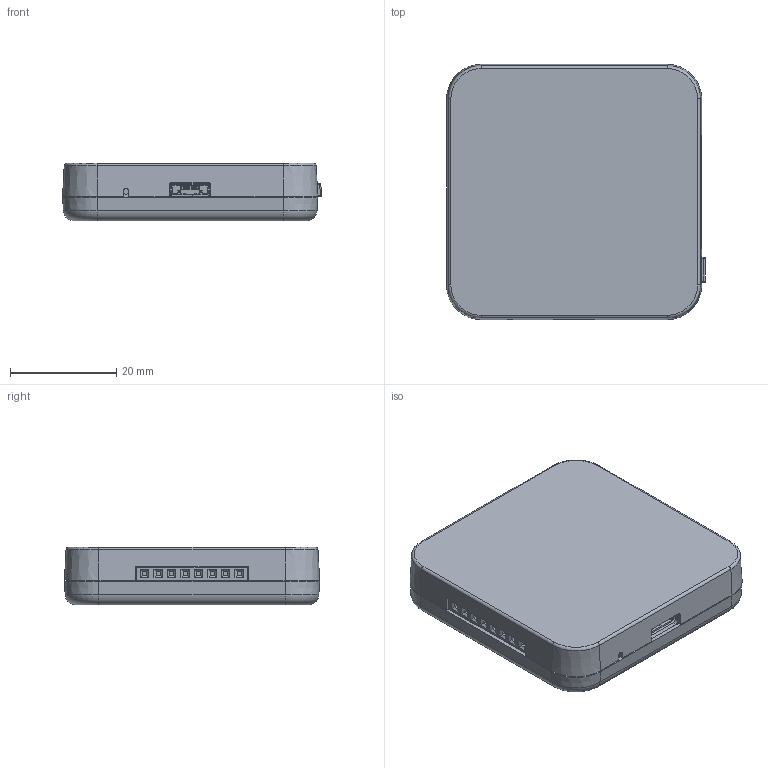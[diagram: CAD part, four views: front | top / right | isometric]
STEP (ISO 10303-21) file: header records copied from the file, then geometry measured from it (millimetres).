
FILE_DESCRIPTION (( 'STEP AP214' ), '1' );
FILE_NAME ('K5 Master Assembly_11.STEP', '2015-12-02T17:40:47', ( 'spetrie' ), ( '' ), 'SwSTEP 2.0', 'SolidWorks 2015', '' );
FILE_SCHEMA (( 'AUTOMOTIVE_DESIGN' ));
Length unit declared in the file: millimetre
Products named in the file (56): IC_NXP_TSOP6_5044001002370; R0201_RES_R0201_51K; LFB182G45CL3D178_RF_DEA162450BT1298A1_LFB182G45; XOSC_TXC_SMD_3_2X2_5MM_5044001002357; R0201_5044001001374; L0402_INDUCTOR_L0402_22NH; R0603_R_0_R0603_0R; R0201_5044001001354; 1509011102m; HDR0_1MILX3_CON3_HDR0_1MILX3_3PIN; R0201_RES_R0201_22R; K5_NextGen Bottom Case Rev B; HDR050_4X2_SMT_CON8A_HDR050_4X2_SMT_CON8A; C0201_CAP_NP_C0201_10PF RF; K5_NextGen Top Case Rev B; C0201_CAP_NP_C0201_10UF; Button_K5^K5 Master Assembly_11; L0805_INDUCTOR_L0805_22UH; C0201_CAP_NP_C0201_01UF; 99397A414_99397A414; K5 Master Assembly_11; C0402_CAP_NP_C0402_22UF; C0201_5044001001608; C0402_CAP_NP_C0402_10UF 63V X5R; C0201_CAP_NP_C0201_001UF; Micro USB_FCI_K4; XTAL_TXC_SMD_1_6X1_2MM_XTAL_TXC_SMD_16X12MM_XTAL_TXC; MRVL_QFN88LP40_10X10_NXU_88MW302_QFN88L_1_MRVL_QFN88LP40; WS_TASU Tacticle Switch; JOHANSON2450AT18A_CHIP ANTENNA_JOHANSON2450AT18A_; IC_WBOND_WSON8_ZP_IC_WBOND_SPI_FLASH_DQIO_WSON8_I; BB02_JS; TDK25203L_CMC_3L_TDK25203L_CMC_3L; C0603_CAP NP_0_C0603_47UF; TP040_T_POINT_TP040_T_POINT; CDRH2D14_INDUCTOR_CDRH2D14_22UH; C0603_CAP NP_0_C0603_10UF 63V X5R; R0201_R_0_R0201_10K; D0603_MOVSMALL_D0603_CDS305GTA; C0603_5044001002326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
Assembly tree (172 placements, depth 3):
  K5 Master Assembly_11
    K5_NextGen Top Case Rev B
    K5_NextGen Bottom Case Rev B
    1509011102m
      1509011102m
      LFB182G45CL3D178_RF_DEA162450BT1298A1_LFB182G45
      L0402_INDUCTOR_L0402_22NH  x3
      SOT563_CMOSDUAL_SOT563_FDY4000CZ  x16
      TSSOP16_74HC4094_TSSOP16_74HC4094  x4
      CON2_50_CON2_CON2_50_CON2
      SOT235_AP3417C_SOT235_AP3417C
      FIL2X1_24_CMC_2L_12_34_FIL2X1_24_CMC_
      D0603_MOVSMALL_D0603_CDS305GTA  x2
      CDRH2D14_INDUCTOR_CDRH2D14_22UH
      TDK25203L_CMC_3L_TDK25203L_CMC_3L
      JOHANSON2450AT18A_CHIP ANTENNA_JOHANSON2450AT18A_
      XTAL_TXC_SMD_1_6X1_2MM_XTAL_TXC_SMD_16X12MM_XTAL_TXC
      C0402_CAP_NP_C0402_10UF 63V X5R  x3
      C0402_CAP_NP_C0402_22UF  x3
      L0805_INDUCTOR_L0805_22UH
      HDR050_4X2_SMT_CON8A_HDR050_4X2_SMT_CON8A
      HDR0_1MILX3_CON3_HDR0_1MILX3_3PIN
      R0603_R_0_R0603_0R
      XOSC_TXC_SMD_3_2X2_5MM_5044001002357
      IC_NXP_TSOP6_5044001002370
      SC74_CM1293A_SC74_D5V0F4U6SO7  x4
      L0603_FERRITE_BEAD_0_L0603_FB3A  x6
      LED_RGB_RA_DIODE_LED_RGB_RA_LED_RGB_RA_DIO
      C0402_CAP NP_2_C0402_22UF  x4
      C0603_5044001002326
      C0603_CAP NP_0_C0603_10UF 63V X5R
      C0603_CAP NP_0_C0603_47UF
      IC_WBOND_WSON8_ZP_IC_WBOND_SPI_FLASH_DQIO_WSON8_I
      MRVL_QFN88LP40_10X10_NXU_88MW302_QFN88L_1_MRVL_QFN88LP40
      C0201_CAP_NP_C0201_001UF  x8
      C0201_5044001001608  x7
      C0201_CAP_NP_C0201_01UF  x15
      C0201_CAP_NP_C0201_10UF  x2
      C0201_CAP_NP_C0201_10PF RF
      R0201_RES_R0201_22R
      R0201_5044001001354  x3
      R0201_5044001001374  x3
      R0201_RES_R0201_51K  x4
      R0201_RES_R0201_604K 1%
      R0201_5044001001342  x2
      R0201_5044001001366
      R0201_5044001001293
      R0201_RES_R0201_10K  x5
      R0201_RES_0_R0201_10K  x3
      R0201_R_0_R0201_10K  x32
      TP040_T_POINT_TP040_T_POINT  x7
      BB02_JS  x2
      WS_TASU Tacticle Switch  x2
      Micro USB_FCI_K4
    99397A414_99397A414
    Button_K5^K5 Master Assembly_11
Bounding box: 48.69 x 48 x 10.8 mm (x, y, z)
Volume: 12573 mm3; surface area: 21033.6 mm2
Topology: 176 solids, 176 shells, 2356 faces, 5709 edges, 3718 vertices
Faces by surface type: plane 1925, cylinder 319, cone 65, bspline 27, torus 16, sphere 4
Entity records: 64666 total; most frequent: CARTESIAN_POINT 12756, ORIENTED_EDGE 8078, DIRECTION 7126, EDGE_CURVE 4039, LINE 2920, VECTOR 2920, VERTEX_POINT 2622, AXIS2_PLACEMENT_3D 2103
